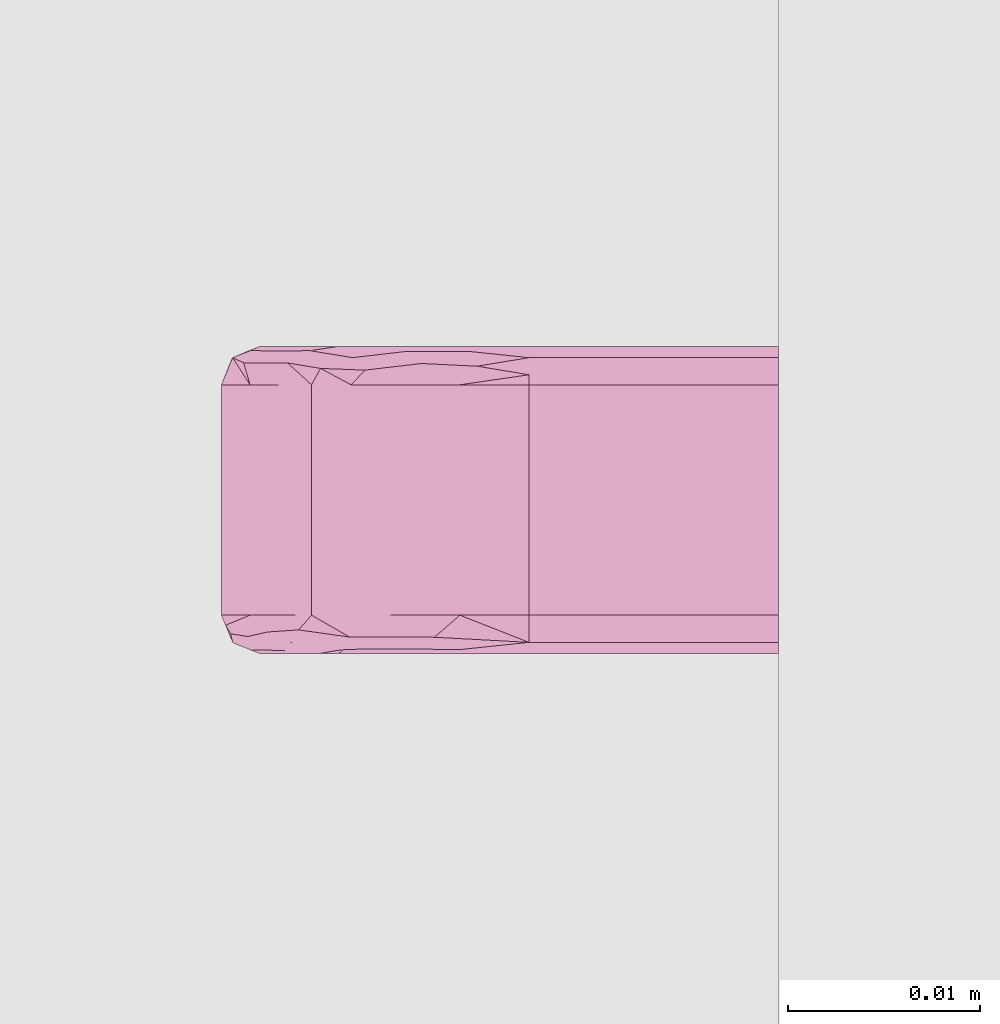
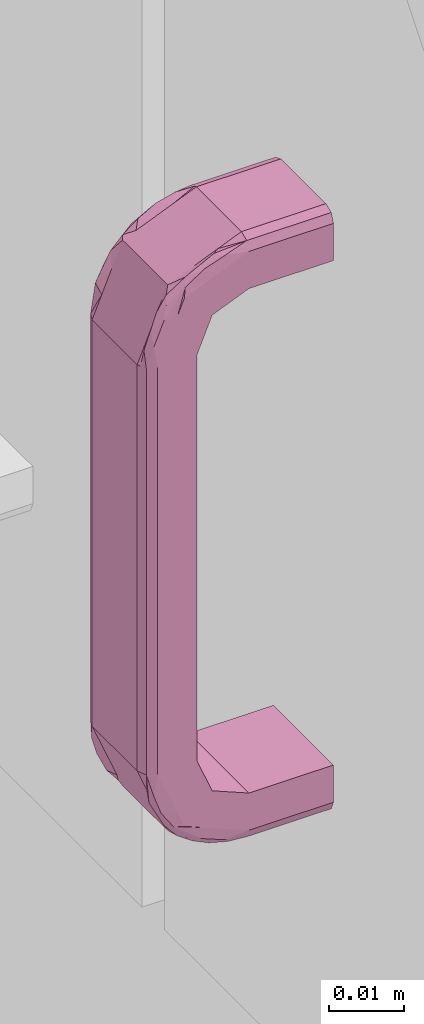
# One storey, part 55 of 65: 1 furnishing.
"""IFC2X3 building model written with IfcOpenShell, lengths in millimetres."""

from ifc_helpers import new_model, entity, si_unit, converted_unit, direction, frame, origin, place, context, subcontext, project, spatial, faceted_brep, source, transform, mapped, material, type_object, type_shapes, element, save


model = new_model("IFC2X3")

# Units and contexts
model_context = context("Model", 3, precision=0.01, world=origin(), true_north=direction((0.0, 1.0)))
body_context = subcontext(model_context, "Body", "Model", "MODEL_VIEW")
ifc_project = project(units=[si_unit("LENGTHUNIT", "METRE", prefix="MILLI"), si_unit("AREAUNIT", "SQUARE_METRE"), si_unit("VOLUMEUNIT", "CUBIC_METRE"), converted_unit("PLANEANGLEUNIT", "DEGREE", entity("IfcPlaneAngleMeasure", 0.017453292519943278), si_unit("PLANEANGLEUNIT", "RADIAN"), dimensions=[0, 0, 0, 0, 0, 0, 0])], contexts=[model_context])

# Site, building, storey, space
site_placement = place(None, origin())
site = spatial("IfcSite", under=ifc_project, at=site_placement, Name="Default", CompositionType="ELEMENT")
building_placement = place(site_placement, origin())
building = spatial("IfcBuilding", under=site, at=building_placement, CompositionType="ELEMENT")
storey_placement = place(building_placement, origin())
storey = spatial("IfcBuildingStorey", under=building, at=storey_placement, Name="Et. 1", CompositionType="ELEMENT", Elevation=0.0)
space_placement = place(storey_placement, origin())
space = spatial("IfcSpace", under=storey, at=space_placement, Name="113", CompositionType="ELEMENT", InteriorOrExteriorSpace="INTERNAL")

# Furnishing
ifc_material = material(Name="Focus - Kjøkken - Håndtak")
furniture_type = type_object("IfcFurnitureType", Name="Focus - Håndtak Skap:Håndtak skap", AssemblyPlace="NOTDEFINED", material=ifc_material)
shared_shape = source(origin(), body_context, "Body", "Brep", [
    faceted_brep([(-6.0, 0.0, 4.021099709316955), (6.0, 0.0, 4.021099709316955), (7.414213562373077, 0.0, 3.435313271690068), (8.0, 0.0, 2.021099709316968), (8.0, 0.0, -4.0210997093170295), (-8.0, 0.0, -4.0210997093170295), (-8.0, 0.0, 2.021099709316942), (-7.414213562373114, 0.0, 3.435313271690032), (-8.0, 0.0, -92.021099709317), (-8.0, 0.0, -85.97890029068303), (8.0, 0.0, -85.97890029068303), (8.0, 0.0, -92.02109970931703), (7.414213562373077, 0.0, -93.43531327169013), (6.0, 0.0, -94.02109970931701), (-6.0, 0.0, -94.02109970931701), (-7.414213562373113, 0.0, -93.43531327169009), (6.0, -13.0, 4.021099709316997), (7.414213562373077, -13.0, 3.4353132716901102), (7.707106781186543, -13.0, 2.728206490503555), (8.0, -13.0, 2.0210997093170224), (8.0, -16.60126528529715, 0.5294067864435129), (8.0, -19.75783998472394, -0.7780892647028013), (8.0, -22.914414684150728, -2.0855853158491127), (8.0, -23.941085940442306, -4.564188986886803), (8.0, -24.967757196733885, -7.042792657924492), (8.0, -25.994428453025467, -9.52139632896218), (8.0, -27.021099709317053, -12.0), (8.0, -27.021099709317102, -24.345039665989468), (8.0, -27.02109970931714, -36.69008005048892), (8.0, -27.021099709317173, -47.017560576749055), (8.0, -27.02109970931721, -57.34504038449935), (8.0, -27.021099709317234, -65.65496033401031), (8.0, -27.021099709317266, -78.0), (8.0, -25.52940678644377, -81.60126528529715), (8.0, -24.221910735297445, -84.75783998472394), (8.0, -22.914414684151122, -87.91441468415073), (8.0, -20.435811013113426, -88.9410859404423), (8.0, -17.95720734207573, -89.96775719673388), (8.0, -15.478603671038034, -90.99442845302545), (8.0, -13.0, -92.02109970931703), (8.0, -13.0, -85.97890029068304), (8.0, -18.64193450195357, -83.64193450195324), (8.0, -20.978900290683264, -78.0), (8.0, -20.978900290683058, -12.0), (8.0, -18.641934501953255, -6.358065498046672), (8.0, -13.0, -4.021099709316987), (-8.0, -13.0, -4.021099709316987), (-8.0, -13.0, -92.02109970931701), (-8.0, -16.6012653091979, -90.52940677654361), (-8.0, -19.7578399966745, -89.22191073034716), (-8.0, -22.914414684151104, -87.91441468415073), (-8.0, -23.941085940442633, -85.435811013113), (-8.0, -24.967757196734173, -82.9572073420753), (-8.0, -25.99442845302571, -80.47860367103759), (-8.0, -27.021099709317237, -78.0), (-8.0, -27.0210997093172, -65.65496055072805), (-8.0, -27.021099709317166, -55.327480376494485), (-8.0, -27.02109970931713, -45.00000020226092), (-8.0, -27.021099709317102, -34.67252002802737), (-8.0, -27.021099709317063, -24.34503985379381), (-8.0, -27.02109970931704, -12.0), (-8.0, -25.52940677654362, -8.398734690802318), (-8.0, -24.221910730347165, -5.242160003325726), (-8.0, -22.914414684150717, -2.0855853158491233), (-8.0, -20.435811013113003, -1.0589140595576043), (-8.0, -17.9572073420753, -0.032242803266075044), (-8.0, -15.478603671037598, 0.9944284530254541), (-8.0, -13.0, 2.0210997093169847), (-8.0, -18.641934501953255, -6.358065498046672), (-8.0, -20.97890029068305, -12.0), (-8.0, -20.978900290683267, -78.0), (-8.0, -18.64193450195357, -83.64193450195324), (-8.0, -13.0, -85.97890029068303), (-7.414213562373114, -13.0, 3.4353132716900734), (-6.523051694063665, -13.0, 3.8044446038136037), (-6.0, -13.0, 4.021099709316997), (7.77682804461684, -22.641402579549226, -0.588486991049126), (7.761199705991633, -19.755916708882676, 1.3575143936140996), (7.832026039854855, -25.954055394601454, -4.794062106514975), (6.0, -24.3286282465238, -0.6713717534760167), (6.7653668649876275, -25.002953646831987, -1.6197407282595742), (7.138822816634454, -22.341444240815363, 0.5752165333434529), (6.0, -20.2025305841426, 1.0377138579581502), (7.148530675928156, -17.923500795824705, 2.864246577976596), (7.108929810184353, -27.65191997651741, -6.400304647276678), (6.0, -26.037713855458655, -4.797469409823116), (6.0, -26.674863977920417, -6.335685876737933), (6.0, -27.52940678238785, -8.398734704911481), (6.0, -25.18317105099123, -2.734420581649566), (7.807346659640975, -27.454202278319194, -8.476170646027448), (7.7836039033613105, -16.529274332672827, 2.502698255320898), (6.0, -16.60126529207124, 2.529406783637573), (7.414213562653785, -25.40873190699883, -2.82000717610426), (6.873580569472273, -26.597477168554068, -3.91370423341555), (6.0, -21.496471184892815, 0.5017461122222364), (6.523051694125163, -28.804444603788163, -12.0), (6.968390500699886, -28.53877057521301, -9.3033965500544), (6.0, -27.847981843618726, -9.167842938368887), (6.0, -29.021099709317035, -12.0), (7.414213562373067, -28.43531327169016, -12.0), (6.0, -18.664314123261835, 1.67486397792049), (6.0, -25.501746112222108, -3.5035288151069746), (-6.0, -16.601265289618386, 2.529406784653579), (-6.0, -15.832157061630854, 2.847981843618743), (-7.78360391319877, -27.50269824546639, -8.470725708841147), (-7.761199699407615, -26.357514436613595, -5.244083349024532), (-7.10892981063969, -18.599695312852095, 2.651919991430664), (-6.0, -20.2025305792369, 1.0377138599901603), (-6.0, -18.664314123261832, 1.67486397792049), (-7.730939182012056, -16.04875454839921, 2.7104148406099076), (-7.744591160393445, -19.340507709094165, 1.5930015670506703), (-6.76536686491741, -21.540484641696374, 1.3746327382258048), (-6.0, -22.265579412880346, 0.183171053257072), (-6.0, -21.496471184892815, 0.5017461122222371), (-7.148530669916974, -27.864246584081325, -7.076499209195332), (-7.138822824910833, -25.57521654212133, -2.6585557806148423), (-6.0, -26.037713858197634, -4.7974694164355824), (-7.414213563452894, -22.17999279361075, 0.4087319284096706), (-7.776828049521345, -24.411513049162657, -2.3585974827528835), (-6.853012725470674, -23.855367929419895, -0.47819170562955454), (-7.414213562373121, -28.43531327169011, -12.0), (-6.0, -27.529406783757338, -8.398734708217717), (-6.0, -25.501746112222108, -3.5035288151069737), (-6.0, -24.3286282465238, -0.6713717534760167), (-7.7071067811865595, -27.728206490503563, -12.0), (-6.96839049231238, -15.696603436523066, 3.5387705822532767), (-6.0, -29.021099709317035, -12.0), (-6.0, -26.67486397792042, -6.33568587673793), (7.414213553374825, -28.435313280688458, -29.508780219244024), (6.0, -29.021099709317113, -34.67252039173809), (7.450985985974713, -28.39755881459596, -41.853819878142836), (7.41421354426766, -28.435313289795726, -61.49999992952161), (6.0, -29.02109970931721, -65.65496032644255), (7.4142135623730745, -28.435313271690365, -78.0), (6.0, -29.02109970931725, -78.0), (6.0, -29.02109970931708, -24.345039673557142), (7.707106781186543, -27.728206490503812, -78.0), (6.0, -29.02109970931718, -55.3274796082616), (6.0, -29.021099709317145, -45.0), (-7.414213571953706, -28.435313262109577, -29.50878047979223), (-6.0, -29.02109970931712, -36.69007988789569), (-6.0, -29.021099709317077, -24.345040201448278), (-7.414213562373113, -28.43531327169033, -78.0), (-7.414213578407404, -28.435313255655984, -61.499999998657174), (-6.0, -29.021099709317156, -47.017559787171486), (-7.376459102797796, -28.472085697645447, -41.85382016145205), (-6.0, -29.021099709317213, -65.6549603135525), (-6.523051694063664, -28.80444460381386, -78.0), (-6.0, -29.02109970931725, -78.0), (-6.0, -29.021099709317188, -57.34504020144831), (7.776828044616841, -24.411513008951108, -87.64140257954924), (7.7611997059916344, -26.357514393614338, -84.7559167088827), (7.8320260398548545, -20.20593789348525, -90.95405539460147), (6.0, -24.328628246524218, -89.32862824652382), (6.0, -22.265579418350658, -90.18317105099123), (6.7653668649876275, -23.38025927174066, -90.002953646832), (6.0, -26.037713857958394, -85.2025305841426), (7.138822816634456, -25.575216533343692, -87.34144424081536), (7.148530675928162, -27.864246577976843, -82.92350079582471), (7.108929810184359, -18.599695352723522, -92.65191997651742), (6.0, -20.202530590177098, -91.03771385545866), (6.0, -18.66431412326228, -91.67486397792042), (6.0, -16.601265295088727, -92.52940678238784), (6.873580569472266, -21.086295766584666, -91.5974771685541), (6.0, -21.49647118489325, -90.50174611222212), (7.8073466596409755, -16.5238293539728, -92.45420227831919), (7.78360390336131, -27.50269825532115, -81.52927433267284), (6.0, -27.529406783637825, -81.60126529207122), (7.414213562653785, -22.179992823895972, -90.40873190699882), (6.0, -25.50174611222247, -86.49647118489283), (6.523051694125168, -13.0, -93.80444460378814), (6.968390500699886, -15.696603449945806, -93.53877057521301), (6.0, -15.832157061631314, -92.84798184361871), (6.0, -13.0, -94.02109970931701), (7.414213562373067, -13.0, -93.43531327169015), (6.0, -26.674863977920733, -83.66431412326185), (-6.0, -27.529406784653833, -81.60126528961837), (-6.0, -27.84798184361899, -80.83215706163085), (-7.7836039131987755, -16.529274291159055, -92.50269824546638), (-7.7611996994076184, -19.755916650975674, -91.3575144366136), (-7.108929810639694, -27.651919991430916, -83.59969531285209), (-6.0, -26.03771385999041, -85.20253057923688), (-6.0, -26.67486397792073, -83.66431412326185), (-7.730939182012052, -27.71041484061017, -81.04875454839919), (-7.74459116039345, -26.593001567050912, -84.34050770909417), (-6.76536686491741, -26.374632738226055, -86.54048464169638), (-6.0, -25.18317105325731, -87.26557941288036), (-6.0, -25.50174611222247, -86.49647118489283), (-7.148530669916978, -17.923500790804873, -92.86424658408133), (-7.138822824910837, -22.341444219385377, -90.57521654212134), (-6.0, -20.20253058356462, -91.03771385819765), (-7.414213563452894, -25.40873192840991, -87.17999279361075), (-7.776828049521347, -22.64140251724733, -89.41151304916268), (-6.853012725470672, -24.52180829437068, -88.85536792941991), (-7.41421356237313, -13.0, -93.43531327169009), (-6.0, -16.601265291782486, -92.52940678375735), (-6.0, -21.49647118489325, -90.50174611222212), (-6.0, -24.328628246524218, -89.32862824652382), (-7.707106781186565, -13.0, -92.72820649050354), (-6.96839049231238, -28.538770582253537, -80.69660343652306), (-6.0, -13.0, -94.02109970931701), (-6.0, -18.66431412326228, -91.67486397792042)], [[[0, 1, 2, 3, 4, 5, 6, 7]], [[8, 9, 10, 11, 12, 13, 14, 15]], [[16, 17, 2, 1]], [[2, 17, 18, 19, 3]], [[4, 3, 19, 20, 21, 22, 23, 24, 25, 26, 27, 28, 29, 30, 31, 32, 33, 34, 35, 36, 37, 38, 39, 11, 10, 40, 41, 42, 43, 44, 45]], [[5, 4, 45, 46]], [[9, 8, 47, 48, 49, 50, 51, 52, 53, 54, 55, 56, 57, 58, 59, 60, 61, 62, 63, 64, 65, 66, 67, 6, 5, 46, 68, 69, 70, 71, 72]], [[67, 73, 7, 6]], [[7, 73, 74, 75, 0]], [[1, 0, 75, 16]], [[76, 21, 77]], [[78, 24, 23]], [[79, 80, 81]], [[82, 81, 83]], [[84, 85, 86, 87]], [[80, 79, 88]], [[89, 24, 78]], [[90, 77, 20]], [[17, 91, 83]], [[92, 93, 84]], [[81, 82, 94, 79]], [[87, 95, 96]], [[77, 83, 81]], [[23, 76, 78]], [[93, 92, 80]], [[22, 76, 23]], [[90, 17, 83]], [[19, 18, 17, 90]], [[95, 87, 97, 98]], [[99, 26, 89]], [[76, 77, 81]], [[20, 19, 90]], [[92, 76, 81]], [[21, 76, 22]], [[21, 20, 77]], [[83, 77, 90]], [[91, 17, 16]], [[83, 91, 100, 82]], [[93, 88, 101, 85]], [[81, 80, 92]], [[88, 93, 80]], [[85, 84, 93]], [[76, 92, 78]], [[92, 84, 78]], [[89, 78, 84]], [[84, 96, 89]], [[89, 26, 25, 24]], [[96, 95, 99]], [[89, 96, 99]], [[87, 96, 84]], [[44, 68, 46, 45]], [[43, 69, 68, 44]], [[74, 102, 103, 75]], [[104, 105, 61]], [[106, 107, 108, 102]], [[109, 110, 106]], [[111, 112, 113, 107]], [[105, 114, 115]], [[115, 114, 116]], [[110, 64, 117]], [[118, 62, 105]], [[106, 110, 117]], [[117, 119, 111]], [[120, 121, 114]], [[115, 116, 122, 123]], [[112, 111, 119]], [[119, 117, 118]], [[63, 118, 64]], [[104, 120, 114]], [[60, 124, 120, 104]], [[109, 125, 73]], [[125, 109, 106]], [[118, 105, 115]], [[61, 60, 104]], [[118, 115, 119]], [[62, 118, 63]], [[62, 61, 105]], [[114, 105, 104]], [[121, 120, 126]], [[114, 121, 127, 116]], [[107, 106, 111]], [[106, 117, 111]], [[115, 123, 119]], [[112, 119, 123]], [[64, 118, 117]], [[125, 74, 73]], [[102, 74, 125]], [[102, 125, 106]], [[73, 67, 109]], [[66, 65, 64, 110]], [[110, 109, 66]], [[109, 67, 66]], [[122, 116, 127, 121, 126, 98, 97, 87, 86, 85, 101, 88, 79, 123]], [[79, 94, 82, 100, 91, 16, 75, 103, 102, 108, 107, 113, 112, 123]], [[128, 28, 27, 99]], [[129, 130, 128]], [[29, 130, 131]], [[132, 133, 131]], [[132, 134, 133]], [[135, 99, 95, 98]], [[128, 99, 135, 129]], [[30, 29, 131, 31]], [[31, 133, 136, 32]], [[27, 26, 99]], [[31, 131, 133]], [[130, 137, 131]], [[28, 130, 29]], [[129, 138, 137, 130]], [[28, 128, 130]], [[137, 132, 131]], [[69, 43, 42, 70]], [[139, 140, 141, 120]], [[55, 142, 143]], [[144, 145, 143]], [[146, 142, 147, 148]], [[141, 126, 120]], [[55, 54, 142]], [[59, 120, 124, 60]], [[139, 120, 59, 58]], [[146, 149, 144, 143]], [[58, 145, 139]], [[146, 143, 142]], [[145, 56, 143]], [[140, 145, 144]], [[58, 57, 56, 145]], [[140, 139, 145]], [[56, 55, 143]], [[98, 126, 141, 140, 144, 149, 146, 148, 134, 132, 137, 138, 129, 135]], [[150, 34, 151]], [[152, 37, 36]], [[153, 154, 155]], [[156, 157, 158]], [[159, 160, 161, 162]], [[163, 154, 164, 160]], [[165, 37, 152]], [[166, 151, 33]], [[133, 167, 158]], [[168, 163, 159]], [[157, 156, 169, 153]], [[162, 170, 171]], [[151, 158, 157]], [[36, 150, 152]], [[163, 168, 155]], [[35, 150, 36]], [[166, 133, 158]], [[32, 136, 133, 166]], [[170, 162, 172, 173]], [[174, 39, 165]], [[150, 151, 157]], [[33, 32, 166]], [[168, 150, 157]], [[34, 150, 35]], [[34, 33, 151]], [[158, 151, 166]], [[167, 133, 134]], [[158, 167, 175, 156]], [[168, 157, 155]], [[157, 153, 155]], [[154, 163, 155]], [[160, 159, 163]], [[150, 168, 152]], [[168, 159, 152]], [[165, 152, 159]], [[159, 171, 165]], [[165, 39, 38, 37]], [[171, 170, 174]], [[165, 171, 174]], [[162, 171, 159]], [[41, 71, 70, 42]], [[40, 72, 71, 41]], [[147, 176, 177, 148]], [[178, 179, 48]], [[180, 181, 182, 176]], [[183, 184, 180]], [[185, 186, 187, 181]], [[179, 188, 189]], [[189, 188, 190]], [[184, 51, 191]], [[192, 49, 179]], [[180, 184, 191]], [[191, 193, 185]], [[194, 195, 188]], [[189, 190, 196, 197]], [[186, 185, 193]], [[193, 191, 192]], [[50, 192, 51]], [[178, 194, 188]], [[47, 198, 194, 178]], [[183, 199, 142]], [[199, 183, 180]], [[192, 179, 189]], [[48, 47, 178]], [[192, 189, 193]], [[49, 192, 50]], [[49, 48, 179]], [[188, 179, 178]], [[195, 194, 200]], [[188, 195, 201, 190]], [[181, 180, 185]], [[180, 191, 185]], [[189, 197, 193]], [[186, 193, 197]], [[51, 192, 191]], [[199, 147, 142]], [[176, 147, 199]], [[176, 199, 180]], [[142, 54, 183]], [[53, 52, 51, 184]], [[184, 183, 53]], [[183, 54, 53]], [[196, 190, 201, 195, 200, 173, 172, 162, 161, 160, 164, 154, 153, 197]], [[153, 169, 156, 175, 167, 134, 148, 177, 176, 182, 181, 187, 186, 197]], [[13, 12, 174, 170, 173]], [[174, 12, 11, 39]], [[72, 40, 10, 9]], [[8, 15, 194, 198, 47]], [[194, 15, 14, 200]], [[173, 200, 14, 13]]]),
])
type_shapes(furniture_type, [shared_shape])
furnishing_placement = place(space_placement, frame((33549.00958675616, 10216.058719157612, 1440.0), z_axis=(0.0, 0.0, 1.0), x_axis=(0.0, -1.0, 0.0)))
element("IfcFurnishingElement", 1, at=furnishing_placement, inside=space, type_object=furniture_type, material=ifc_material, Name="Focus - Håndtak Skap:Håndtak skap", context=body_context, shape_type="MappedRepresentation", body=[
    mapped(shared_shape, transform((0.0, 0.0, 0.0), scale=1.0)),
])

save(model, "model.ifc")
